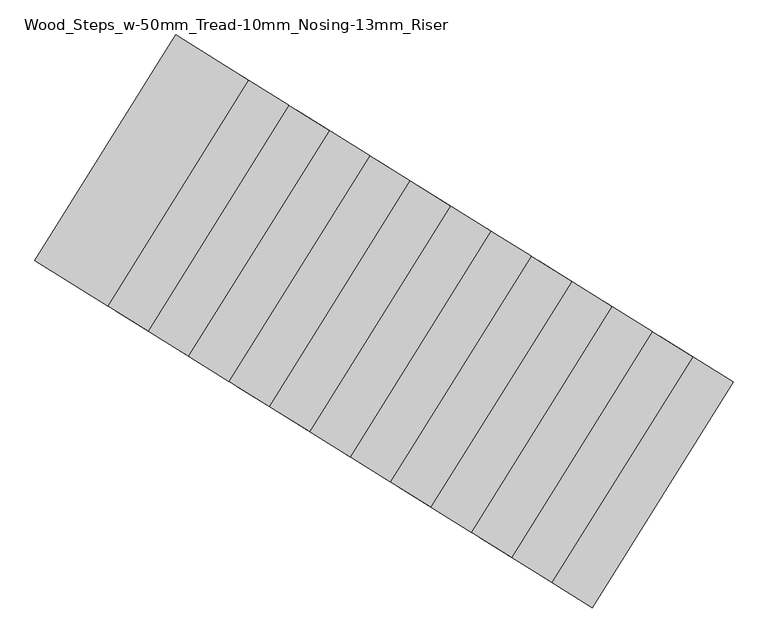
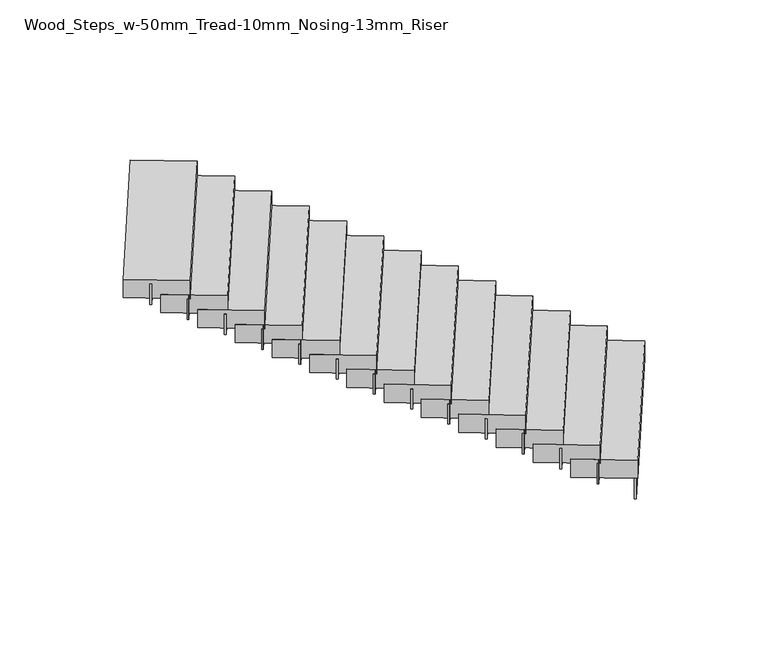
"""IFC4 building model written with IfcOpenShell, lengths in millimetres: stair flight geometry, Wood_Steps_w-50mm_Tread-10mm_Nosing-13mm_Riser."""

from ifc_helpers import new_model, si_unit, frame, origin, place, context, project, spatial, polyline, outline, extrude, source, transform, mapped, element, save


def wood_steps_w_50mm_tread_10mm_nosing_13mm_riser_1bc18a41(model_context):
    return source(origin(), model_context, "Body", "SweptSolid", [
        extrude(outline(polyline([(18102.8760366, 11391.7163226), (18113.4856587, 11385.1067902), (17374.4182999, 10198.7557973), (17363.8086778, 10205.3653298), (18102.8760366, 11391.7163226)])), frame((0.0, 0.0, 13316.6666667), z_axis=(0.0, 0.0, 1.0), x_axis=(1.0, 0.0, 0.0)), (0.0, 0.0, 1.0), 166.6666667),
        extrude(outline(polyline([(17890.6835948, 11523.9069715), (17901.2932169, 11517.297439), (17162.2258581, 10330.9464462), (17151.616236, 10337.5559786), (17890.6835948, 11523.9069715)])), frame((0.0, 0.0, 13433.3333333), z_axis=(0.0, 0.0, 1.0), x_axis=(1.0, 0.0, 0.0)), (0.0, 0.0, 1.0), 166.6666667),
        extrude(outline(polyline([(17678.491153, 11656.0976203), (17689.1007751, 11649.4880879), (16950.0334163, 10463.137095), (16939.4237942, 10469.7466275), (17678.491153, 11656.0976203)])), frame((0.0, 0.0, 13550.0), z_axis=(0.0, 0.0, 1.0), x_axis=(1.0, 0.0, 0.0)), (0.0, 0.0, 1.0), 166.6666667),
        extrude(outline(polyline([(17466.2987112, 11788.2882692), (17476.9083333, 11781.6787367), (16737.8409745, 10595.3277439), (16727.2313524, 10601.9372763), (17466.2987112, 11788.2882692)])), frame((0.0, 0.0, 13666.6666667), z_axis=(0.0, 0.0, 1.0), x_axis=(1.0, 0.0, 0.0)), (0.0, 0.0, 1.0), 166.6666667),
        extrude(outline(polyline([(17254.1062694, 11920.4789181), (17264.7158915, 11913.8693856), (16525.6485327, 10727.5183928), (16515.0389106, 10734.1279252), (17254.1062694, 11920.4789181)])), frame((0.0, 0.0, 13783.3333333), z_axis=(0.0, 0.0, 1.0), x_axis=(1.0, 0.0, 0.0)), (0.0, 0.0, 1.0), 166.6666667),
        extrude(outline(polyline([(17041.9138276, 12052.6695669), (17052.5234497, 12046.0600345), (16313.4560909, 10859.7090416), (16302.8464688, 10866.3185741), (17041.9138276, 12052.6695669)])), frame((0.0, 0.0, 13900.0), z_axis=(0.0, 0.0, 1.0), x_axis=(1.0, 0.0, 0.0)), (0.0, 0.0, 1.0), 166.6666667),
        extrude(outline(polyline([(16829.7213859, 12184.8602158), (16840.3310079, 12178.2506833), (16101.2636491, 10991.8996905), (16090.654027, 10998.5092229), (16829.7213859, 12184.8602158)])), frame((0.0, 0.0, 14016.6666667), z_axis=(0.0, 0.0, 1.0), x_axis=(1.0, 0.0, 0.0)), (0.0, 0.0, 1.0), 166.6666667),
        extrude(outline(polyline([(16617.5289441, 12317.0508646), (16628.1385661, 12310.4413322), (15889.0712073, 11124.0903393), (15878.4615852, 11130.6998718), (16617.5289441, 12317.0508646)])), frame((0.0, 0.0, 14133.3333333), z_axis=(0.0, 0.0, 1.0), x_axis=(1.0, 0.0, 0.0)), (0.0, 0.0, 1.0), 166.6666667),
        extrude(outline(polyline([(16405.3365023, 12449.2415135), (16415.9461244, 12442.631981), (15676.8787655, 11256.2809882), (15666.2691434, 11262.8905206), (16405.3365023, 12449.2415135)])), frame((0.0, 0.0, 14250.0), z_axis=(0.0, 0.0, 1.0), x_axis=(1.0, 0.0, 0.0)), (0.0, 0.0, 1.0), 166.6666667),
        extrude(outline(polyline([(16193.1440605, 12581.4321624), (16203.7536826, 12574.8226299), (15464.6863237, 11388.4716371), (15454.0767016, 11395.0811695), (16193.1440605, 12581.4321624)])), frame((0.0, 0.0, 14366.6666667), z_axis=(0.0, 0.0, 1.0), x_axis=(1.0, 0.0, 0.0)), (0.0, 0.0, 1.0), 166.6666667),
        extrude(outline(polyline([(15980.9516187, 12713.6228112), (15991.5612408, 12707.0132788), (15252.4938819, 11520.6622859), (15241.8842598, 11527.2718184), (15980.9516187, 12713.6228112)])), frame((0.0, 0.0, 14483.3333333), z_axis=(0.0, 0.0, 1.0), x_axis=(1.0, 0.0, 0.0)), (0.0, 0.0, 1.0), 166.6666667),
        extrude(outline(polyline([(15768.7591769, 12845.8134601), (15779.368799, 12839.2039276), (15040.3014401, 11652.8529348), (15029.6918181, 11659.4624672), (15768.7591769, 12845.8134601)])), frame((0.0, 0.0, 14600.0), z_axis=(0.0, 0.0, 1.0), x_axis=(1.0, 0.0, 0.0)), (0.0, 0.0, 1.0), 166.6666667),
        extrude(outline(polyline([(15556.5667351, 12978.0041089), (15567.1763572, 12971.3945765), (14828.1089983, 11785.0435836), (14817.4993763, 11791.6531161), (15556.5667351, 12978.0041089)])), frame((0.0, 0.0, 14716.6666667), z_axis=(0.0, 0.0, 1.0), x_axis=(1.0, 0.0, 0.0)), (0.0, 0.0, 1.0), 166.6666667),
        extrude(outline(polyline([(15344.3742933, 13110.1947578), (15354.9839154, 13103.5852253), (14615.9165566, 11917.2342325), (14605.3069345, 11923.8437649), (15344.3742933, 13110.1947578)])), frame((0.0, 0.0, 14833.3333333), z_axis=(0.0, 0.0, 1.0), x_axis=(1.0, 0.0, 0.0)), (0.0, 0.0, 1.0), 166.6666667),
        extrude(outline(polyline([(17740.0269611, 11617.7623322), (18121.9733564, 11379.8191642), (17382.9059975, 10193.4681714), (17000.9596023, 10431.4113393), (17740.0269611, 11617.7623322)])), frame((0.0, 0.0, 13483.3333333), z_axis=(0.0, 0.0, 1.0), x_axis=(1.0, 0.0, 0.0)), (0.0, 0.0, 1.0), 150.0),
        extrude(outline(polyline([(17527.8345194, 11749.952981), (17909.7809146, 11512.0098131), (17170.7135557, 10325.6588202), (16788.7671605, 10563.6019882), (17527.8345194, 11749.952981)])), frame((0.0, 0.0, 13600.0), z_axis=(0.0, 0.0, 1.0), x_axis=(1.0, 0.0, 0.0)), (0.0, 0.0, 1.0), 150.0),
        extrude(outline(polyline([(17315.6420776, 11882.1436299), (17697.5884728, 11644.2004619), (16958.5211139, 10457.8494691), (16576.5747187, 10695.792637), (17315.6420776, 11882.1436299)])), frame((0.0, 0.0, 13716.6666667), z_axis=(0.0, 0.0, 1.0), x_axis=(1.0, 0.0, 0.0)), (0.0, 0.0, 1.0), 150.0),
        extrude(outline(polyline([(17103.4496358, 12014.3342787), (17485.396031, 11776.3911108), (16746.3286722, 10590.0401179), (16364.3822769, 10827.9832859), (17103.4496358, 12014.3342787)])), frame((0.0, 0.0, 13833.3333333), z_axis=(0.0, 0.0, 1.0), x_axis=(1.0, 0.0, 0.0)), (0.0, 0.0, 1.0), 150.0),
        extrude(outline(polyline([(16891.257194, 12146.5249276), (17273.2035892, 11908.5817597), (16534.1362304, 10722.2307668), (16152.1898351, 10960.1739347), (16891.257194, 12146.5249276)])), frame((0.0, 0.0, 13950.0), z_axis=(0.0, 0.0, 1.0), x_axis=(1.0, 0.0, 0.0)), (0.0, 0.0, 1.0), 150.0),
        extrude(outline(polyline([(16679.0647522, 12278.7155765), (17061.0111474, 12040.7724085), (16321.9437886, 10854.4214157), (15939.9973933, 11092.3645836), (16679.0647522, 12278.7155765)])), frame((0.0, 0.0, 14066.6666667), z_axis=(0.0, 0.0, 1.0), x_axis=(1.0, 0.0, 0.0)), (0.0, 0.0, 1.0), 150.0),
        extrude(outline(polyline([(16466.8723104, 12410.9062253), (16848.8187056, 12172.9630574), (16109.7513468, 10986.6120645), (15727.8049516, 11224.5552325), (16466.8723104, 12410.9062253)])), frame((0.0, 0.0, 14183.3333333), z_axis=(0.0, 0.0, 1.0), x_axis=(1.0, 0.0, 0.0)), (0.0, 0.0, 1.0), 150.0),
        extrude(outline(polyline([(16254.6798686, 12543.0968742), (16636.6262638, 12305.1537062), (15897.558905, 11118.8027134), (15515.6125098, 11356.7458813), (16254.6798686, 12543.0968742)])), frame((0.0, 0.0, 14300.0), z_axis=(0.0, 0.0, 1.0), x_axis=(1.0, 0.0, 0.0)), (0.0, 0.0, 1.0), 150.0),
        extrude(outline(polyline([(16042.4874268, 12675.287523), (16424.433822, 12437.3443551), (15685.3664632, 11250.9933622), (15303.420068, 11488.9365302), (16042.4874268, 12675.287523)])), frame((0.0, 0.0, 14416.6666667), z_axis=(0.0, 0.0, 1.0), x_axis=(1.0, 0.0, 0.0)), (0.0, 0.0, 1.0), 150.0),
        extrude(outline(polyline([(15830.294985, 12807.4781719), (16212.2413802, 12569.535004), (15473.1740214, 11383.1840111), (15091.2276262, 11621.127179), (15830.294985, 12807.4781719)])), frame((0.0, 0.0, 14533.3333333), z_axis=(0.0, 0.0, 1.0), x_axis=(1.0, 0.0, 0.0)), (0.0, 0.0, 1.0), 150.0),
        extrude(outline(polyline([(15618.1025432, 12939.6688208), (16000.0489384, 12701.7256528), (15260.9815796, 11515.37466), (14879.0351844, 11753.3178279), (15618.1025432, 12939.6688208)])), frame((0.0, 0.0, 14650.0), z_axis=(0.0, 0.0, 1.0), x_axis=(1.0, 0.0, 0.0)), (0.0, 0.0, 1.0), 150.0),
        extrude(outline(polyline([(15405.9101014, 13071.8594696), (15787.8564966, 12833.9163017), (15048.7891378, 11647.5653088), (14666.8427426, 11885.5084768), (15405.9101014, 13071.8594696)])), frame((0.0, 0.0, 14766.6666667), z_axis=(0.0, 0.0, 1.0), x_axis=(1.0, 0.0, 0.0)), (0.0, 0.0, 1.0), 150.0),
        extrude(outline(polyline([(15193.7176596, 13204.0501185), (15575.6640549, 12966.1069505), (14836.596696, 11779.7559577), (14454.6503008, 12017.6991256), (15193.7176596, 13204.0501185)])), frame((0.0, 0.0, 14883.3333333), z_axis=(0.0, 0.0, 1.0), x_axis=(1.0, 0.0, 0.0)), (0.0, 0.0, 1.0), 150.0),
    ])


if __name__ == "__main__":
    model = new_model("IFC4")
    model_context = context("Model", 3, world=origin())
    ifc_project = project(units=[si_unit("LENGTHUNIT", "METRE", prefix="MILLI")], contexts=[model_context])
    site = spatial("IfcSite", under=ifc_project)
    building = spatial("IfcBuilding", under=site)
    placement = place(None, origin())
    wood_steps_w_50mm_tread_10mm_nosing_13mm_riser_shape = wood_steps_w_50mm_tread_10mm_nosing_13mm_riser_1bc18a41(model_context)
    element("IfcStairFlight", 1, ObjectType="Wood_Steps_w-50mm_Tread-10mm_Nosing-13mm_Riser", at=placement, inside=building, context=model_context, shape_type="MappedRepresentation", body=[
        mapped(wood_steps_w_50mm_tread_10mm_nosing_13mm_riser_shape, transform((0.0, 0.0, 0.0), x_axis=(1.0, 0.0, 0.0), y_axis=(0.0, 1.0, 0.0), z_axis=(0.0, 0.0, 1.0))),
    ])
    save(model, "model.ifc")
